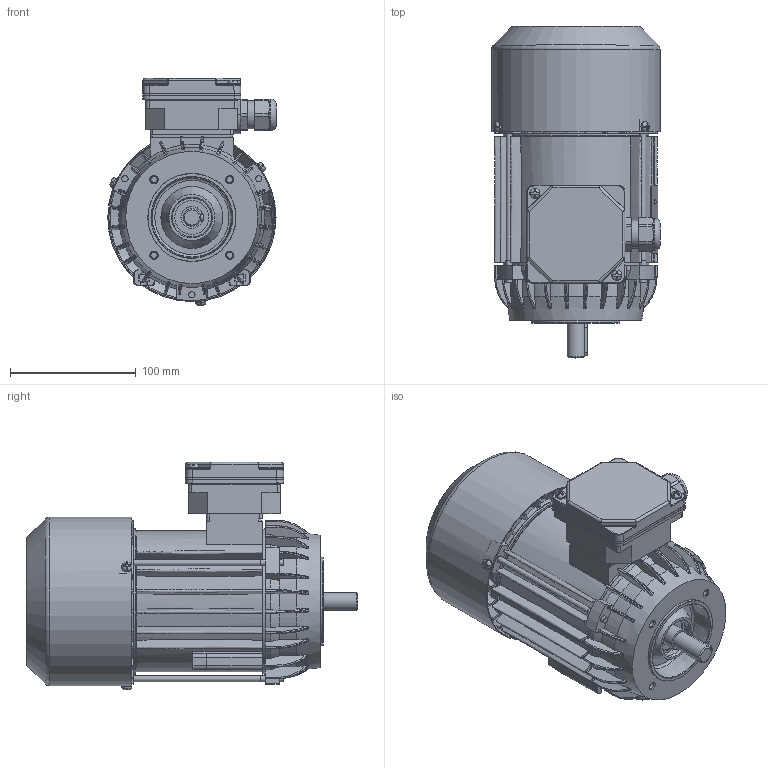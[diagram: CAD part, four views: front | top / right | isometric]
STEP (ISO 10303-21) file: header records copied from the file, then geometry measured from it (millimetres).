
FILE_DESCRIPTION(/* description */ ('Unknown'),/* implementation_level */ '2;1');
FILE_NAME(/* name */ '2SIEK71-4B2',/* time_stamp */ '2021-04-13T15:20:23+02:00',/* author */ ('Unknown'),/* organization */ ('Unknown'),/* preprocessor_version */ 'ST-DEVELOPER v16.7',/* originating_system */ 'Solid Edge',/* authorisation */ 'Unknown');
FILE_SCHEMA (('AUTOMOTIVE_DESIGN {1 0 10303 214 3 1 1}'));
Products named in the file (1): 2SIEK71-4B2
Bounding box: 133.8 x 263.49 x 180.57 mm (x, y, z)
Volume: 627822.1 mm3; surface area: 409875.5 mm2
Topology: 2 solids, 2 shells, 2433 faces, 6815 edges, 4388 vertices
Faces by surface type: plane 957, cylinder 699, bspline 372, torus 220, cone 161, sphere 24
Full cylindrical faces by diameter (mm): 3.7 x4, 3.8 x4, 4 x2, 4.6 x3, 4.8 x2, 4.917 x4, 5 x8, 5.5 x3, 7 x1, 8 x9, 13.999 x1, 15.898 x1, 16.098 x1, 16.498 x1, 16.998 x2, 17.4 x2, 21.998 x2, 22.3 x1, 22.498 x1, 23.098 x1, 23.998 x1, 24.496 x4, 25 x1, 27 x1, 28 x1, 31 x1, 32.502 x4, 36 x2, 40 x3, 70 x1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
Entity records: 105117 total; most frequent: CARTESIAN_POINT 29865, ORIENTED_EDGE 12964, DIRECTION 11041, EDGE_CURVE 6482, VERTEX_POINT 4270, AXIS2_PLACEMENT_3D 4198, FACE_BOUND 2804, EDGE_LOOP 2800
